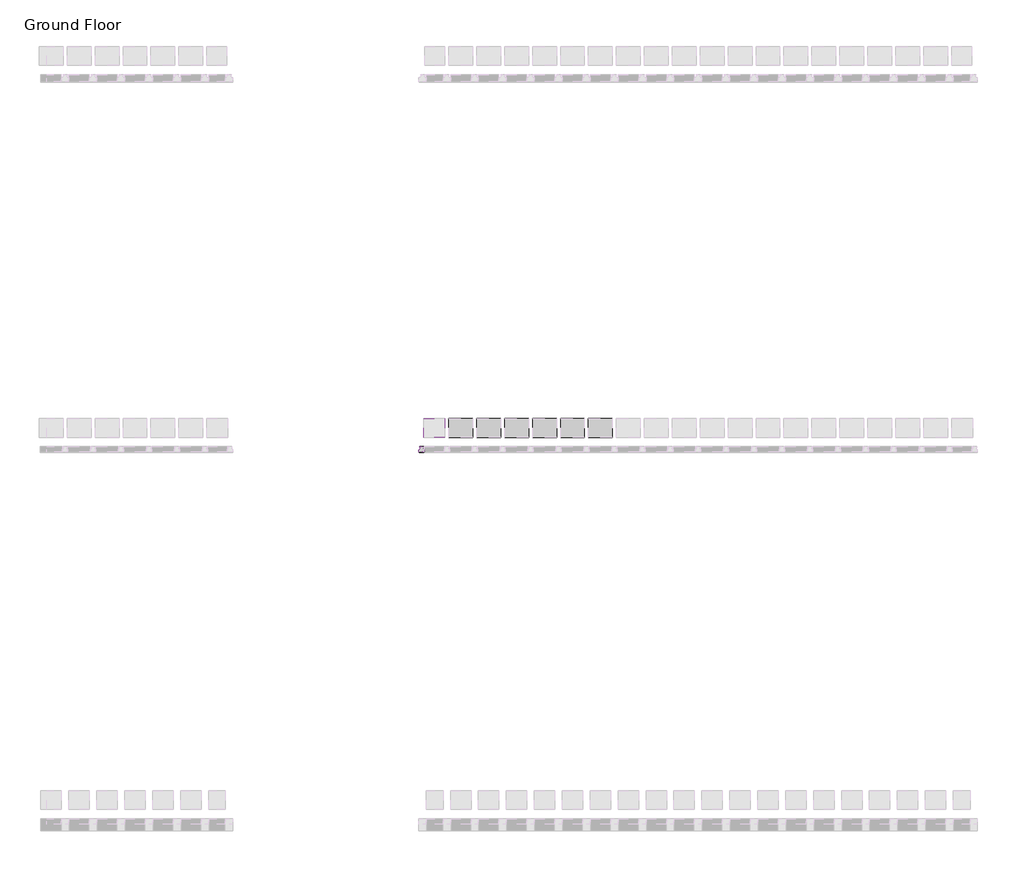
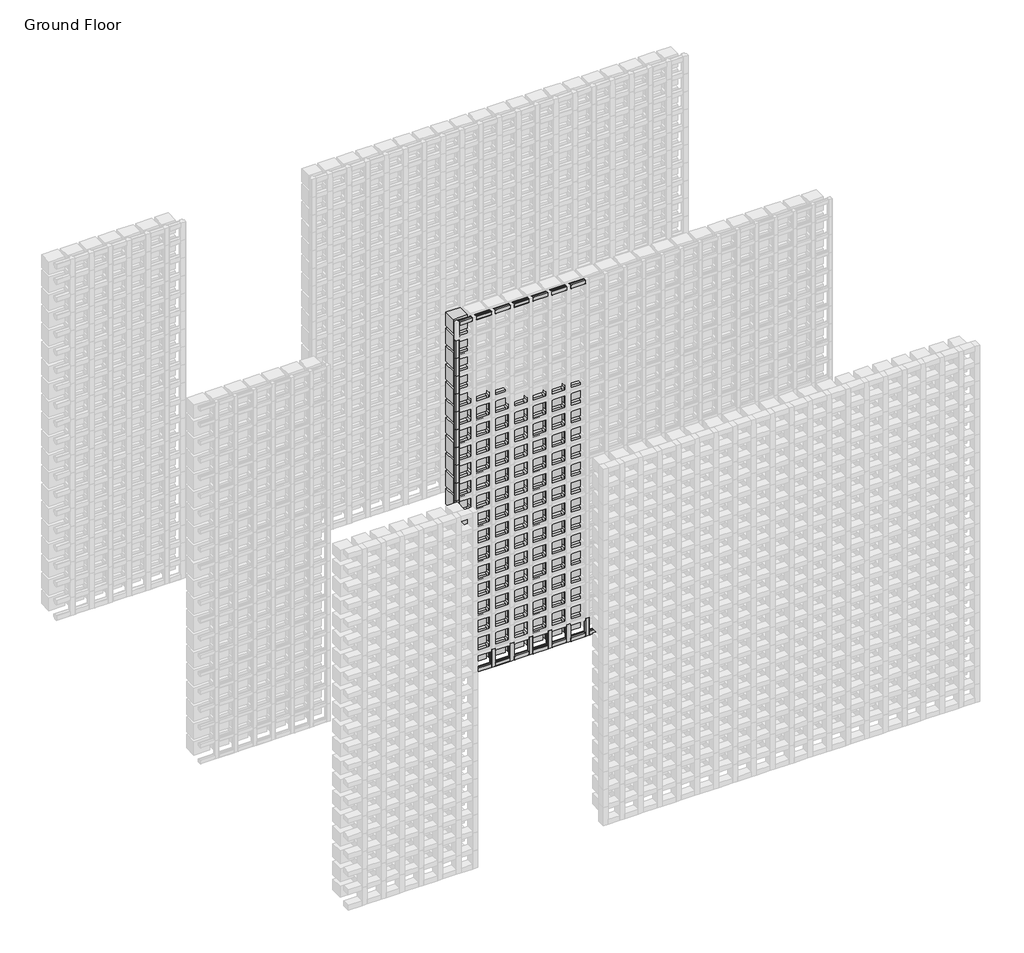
# One storey, part 103 of 350: 98 plates, 40 members.
"""IFC4 building model written with IfcOpenShell, lengths in millimetres."""

from ifc_helpers import new_model, si_unit, origin, place, context, project, spatial, transform, mapped, element, save
from components import rectangular_mullion_f1976eb1, rectangular_mullion_66d447bf, rectangular_mullion_02594090, rectangular_mullion_790ae51e, rectangular_mullion_f16743ad, empty_system_panel_empty_5a3607ba, empty_system_panel_empty_c8609655, empty_system_panel_empty_babc703c, empty_system_panel_empty_53187d3d

model = new_model("IFC4")

# Units and contexts
model_context = context("Model", 3, world=origin())
ifc_project = project(units=[si_unit("LENGTHUNIT", "METRE", prefix="MILLI")], contexts=[model_context])

# Site, building, storey
site = spatial("IfcSite", under=ifc_project)
building = spatial("IfcBuilding", under=site)
storey = spatial("IfcBuildingStorey", under=building, Name="Ground Floor", Elevation=0.0)

# Members
placement = place(None, origin())
rectangular_mullion_shape = rectangular_mullion_f1976eb1(model_context)
element("IfcMember", 1, ObjectType="Rectangular Mullion : Batten_Timber_Modinex_Austratus_Grid_Fin_30x30_Blackbutt", at=placement, inside=storey, context=model_context, shape_type="MappedRepresentation", body=[
    mapped(rectangular_mullion_shape, transform((6066.4361642, 42968.2978302, 0.0), x_axis=(1.0, 0.0, 0.0), y_axis=(0.0, -1.0, 0.0), z_axis=(0.0, 0.0, -1.0))),
])
element("IfcMember", 2, ObjectType="Rectangular Mullion : Batten_Timber_Modinex_Austratus_Grid_Fin_30x30_Blackbutt", at=placement, inside=storey, context=model_context, shape_type="MappedRepresentation", body=[
    mapped(rectangular_mullion_shape, transform((6216.4361642, 42968.2978302, 0.0), x_axis=(1.0, 0.0, 0.0), y_axis=(0.0, -1.0, 0.0), z_axis=(0.0, 0.0, -1.0))),
])
element("IfcMember", 3, ObjectType="Rectangular Mullion : Batten_Timber_Modinex_Austratus_Grid_Fin_30x30_Blackbutt", at=placement, inside=storey, context=model_context, shape_type="MappedRepresentation", body=[
    mapped(rectangular_mullion_shape, transform((6366.4361642, 42968.2978302, 0.0), x_axis=(1.0, 0.0, 0.0), y_axis=(0.0, -1.0, 0.0), z_axis=(0.0, 0.0, -1.0))),
])
element("IfcMember", 4, ObjectType="Rectangular Mullion : Batten_Timber_Modinex_Austratus_Grid_Fin_30x30_Blackbutt", at=placement, inside=storey, context=model_context, shape_type="MappedRepresentation", body=[
    mapped(rectangular_mullion_shape, transform((6516.4361642, 42968.2978302, 0.0), x_axis=(1.0, 0.0, 0.0), y_axis=(0.0, -1.0, 0.0), z_axis=(0.0, 0.0, -1.0))),
])
element("IfcMember", 5, ObjectType="Rectangular Mullion : Batten_Timber_Modinex_Austratus_Grid_Fin_30x30_Blackbutt", at=placement, inside=storey, context=model_context, shape_type="MappedRepresentation", body=[
    mapped(rectangular_mullion_shape, transform((6666.4361642, 42968.2978302, 0.0), x_axis=(1.0, 0.0, 0.0), y_axis=(0.0, -1.0, 0.0), z_axis=(0.0, 0.0, -1.0))),
])
element("IfcMember", 6, ObjectType="Rectangular Mullion : Batten_Timber_Modinex_Austratus_Grid_Fin_30x30_Blackbutt", at=placement, inside=storey, context=model_context, shape_type="MappedRepresentation", body=[
    mapped(rectangular_mullion_shape, transform((6816.4361642, 42968.2978302, 0.0), x_axis=(1.0, 0.0, 0.0), y_axis=(0.0, -1.0, 0.0), z_axis=(0.0, 0.0, -1.0))),
])
element("IfcMember", 7, ObjectType="Rectangular Mullion : Batten_Timber_Modinex_Austratus_Grid_Fin_30x30_Blackbutt", at=placement, inside=storey, context=model_context, shape_type="MappedRepresentation", body=[
    mapped(rectangular_mullion_shape, transform((6966.4361642, 42968.2978302, 0.0), x_axis=(1.0, 0.0, 0.0), y_axis=(0.0, -1.0, 0.0), z_axis=(0.0, 0.0, -1.0))),
])
rectangular_mullion_2_shape = rectangular_mullion_66d447bf(model_context)
element("IfcMember", 8, ObjectType="Rectangular Mullion : Batten_Timber_Modinex_Austratus_Grid_Fin_30x30_Blackbutt", at=placement, inside=storey, context=model_context, shape_type="MappedRepresentation", body=[
    mapped(rectangular_mullion_2_shape, transform((6051.4361642, 42968.2978302, 3000.0), x_axis=(0.0, 0.0, 1.0), y_axis=(0.0, -1.0, 0.0), z_axis=(1.0, 0.0, 0.0))),
])
rectangular_mullion_3_shape = rectangular_mullion_02594090(model_context)
element("IfcMember", 9, ObjectType="Rectangular Mullion : Batten_Timber_Modinex_Austratus_Grid_Fin_30x30_Blackbutt", at=placement, inside=storey, context=model_context, shape_type="MappedRepresentation", body=[
    mapped(rectangular_mullion_3_shape, transform((6201.4361642, 42968.2978302, 3000.0), x_axis=(0.0, 0.0, 1.0), y_axis=(0.0, -1.0, 0.0), z_axis=(1.0, 0.0, 0.0))),
])
element("IfcMember", 10, ObjectType="Rectangular Mullion : Batten_Timber_Modinex_Austratus_Grid_Fin_30x30_Blackbutt", at=placement, inside=storey, context=model_context, shape_type="MappedRepresentation", body=[
    mapped(rectangular_mullion_3_shape, transform((6351.4361642, 42968.2978302, 3000.0), x_axis=(0.0, 0.0, 1.0), y_axis=(0.0, -1.0, 0.0), z_axis=(1.0, 0.0, 0.0))),
])
element("IfcMember", 11, ObjectType="Rectangular Mullion : Batten_Timber_Modinex_Austratus_Grid_Fin_30x30_Blackbutt", at=placement, inside=storey, context=model_context, shape_type="MappedRepresentation", body=[
    mapped(rectangular_mullion_3_shape, transform((6501.4361642, 42968.2978302, 3000.0), x_axis=(0.0, 0.0, 1.0), y_axis=(0.0, -1.0, 0.0), z_axis=(1.0, 0.0, 0.0))),
])
element("IfcMember", 12, ObjectType="Rectangular Mullion : Batten_Timber_Modinex_Austratus_Grid_Fin_30x30_Blackbutt", at=placement, inside=storey, context=model_context, shape_type="MappedRepresentation", body=[
    mapped(rectangular_mullion_3_shape, transform((6651.4361642, 42968.2978302, 3000.0), x_axis=(0.0, 0.0, 1.0), y_axis=(0.0, -1.0, 0.0), z_axis=(1.0, 0.0, 0.0))),
])
element("IfcMember", 13, ObjectType="Rectangular Mullion : Batten_Timber_Modinex_Austratus_Grid_Fin_30x30_Blackbutt", at=placement, inside=storey, context=model_context, shape_type="MappedRepresentation", body=[
    mapped(rectangular_mullion_3_shape, transform((6801.4361642, 42968.2978302, 3000.0), x_axis=(0.0, 0.0, 1.0), y_axis=(0.0, -1.0, 0.0), z_axis=(1.0, 0.0, 0.0))),
])
element("IfcMember", 14, ObjectType="Rectangular Mullion : Batten_Timber_Modinex_Austratus_Grid_Fin_30x30_Blackbutt", at=placement, inside=storey, context=model_context, shape_type="MappedRepresentation", body=[
    mapped(rectangular_mullion_3_shape, transform((6951.4361642, 42968.2978302, 3000.0), x_axis=(0.0, 0.0, 1.0), y_axis=(0.0, -1.0, 0.0), z_axis=(1.0, 0.0, 0.0))),
])
rectangular_mullion_4_shape = rectangular_mullion_790ae51e(model_context)
element("IfcMember", 15, ObjectType="Rectangular Mullion : Batten_Timber_Modinex_Austratus_Grid_Fin_30x30_Blackbutt", at=placement, inside=storey, context=model_context, shape_type="MappedRepresentation", body=[
    mapped(rectangular_mullion_4_shape, transform((6081.4361642, 42968.2978302, 0.0), x_axis=(0.0, 0.0, -1.0), y_axis=(0.0, -1.0, 0.0), z_axis=(-1.0, 0.0, 0.0))),
])
element("IfcMember", 16, ObjectType="Rectangular Mullion : Batten_Timber_Modinex_Austratus_Grid_Fin_30x30_Blackbutt", at=placement, inside=storey, context=model_context, shape_type="MappedRepresentation", body=[
    mapped(rectangular_mullion_4_shape, transform((6231.4361642, 42968.2978302, 0.0), x_axis=(0.0, 0.0, -1.0), y_axis=(0.0, -1.0, 0.0), z_axis=(-1.0, 0.0, 0.0))),
])
element("IfcMember", 17, ObjectType="Rectangular Mullion : Batten_Timber_Modinex_Austratus_Grid_Fin_30x30_Blackbutt", at=placement, inside=storey, context=model_context, shape_type="MappedRepresentation", body=[
    mapped(rectangular_mullion_4_shape, transform((6381.4361642, 42968.2978302, 0.0), x_axis=(0.0, 0.0, -1.0), y_axis=(0.0, -1.0, 0.0), z_axis=(-1.0, 0.0, 0.0))),
])
element("IfcMember", 18, ObjectType="Rectangular Mullion : Batten_Timber_Modinex_Austratus_Grid_Fin_30x30_Blackbutt", at=placement, inside=storey, context=model_context, shape_type="MappedRepresentation", body=[
    mapped(rectangular_mullion_4_shape, transform((6531.4361642, 42968.2978302, 0.0), x_axis=(0.0, 0.0, -1.0), y_axis=(0.0, -1.0, 0.0), z_axis=(-1.0, 0.0, 0.0))),
])
element("IfcMember", 19, ObjectType="Rectangular Mullion : Batten_Timber_Modinex_Austratus_Grid_Fin_30x30_Blackbutt", at=placement, inside=storey, context=model_context, shape_type="MappedRepresentation", body=[
    mapped(rectangular_mullion_4_shape, transform((6681.4361642, 42968.2978302, 0.0), x_axis=(0.0, 0.0, -1.0), y_axis=(0.0, -1.0, 0.0), z_axis=(-1.0, 0.0, 0.0))),
])
element("IfcMember", 20, ObjectType="Rectangular Mullion : Batten_Timber_Modinex_Austratus_Grid_Fin_30x30_Blackbutt", at=placement, inside=storey, context=model_context, shape_type="MappedRepresentation", body=[
    mapped(rectangular_mullion_4_shape, transform((6831.4361642, 42968.2978302, 0.0), x_axis=(0.0, 0.0, -1.0), y_axis=(0.0, -1.0, 0.0), z_axis=(-1.0, 0.0, 0.0))),
])
element("IfcMember", 21, ObjectType="Rectangular Mullion : Batten_Timber_Modinex_Austratus_Grid_Fin_30x30_Blackbutt", at=placement, inside=storey, context=model_context, shape_type="MappedRepresentation", body=[
    mapped(rectangular_mullion_4_shape, transform((6981.4361642, 42968.2978302, 0.0), x_axis=(0.0, 0.0, -1.0), y_axis=(0.0, -1.0, 0.0), z_axis=(-1.0, 0.0, 0.0))),
])
rectangular_mullion_5_shape = rectangular_mullion_f16743ad(model_context)
element("IfcMember", 22, ObjectType="Rectangular Mullion : Batten_Timber_Modinex_Austratus_Grid_Fin_30x30_Blackbutt", at=placement, inside=storey, context=model_context, shape_type="MappedRepresentation", body=[
    mapped(rectangular_mullion_5_shape, transform((5916.4361639, 42968.2978302, 150.0), x_axis=(-1.0, 0.0, 0.0), y_axis=(0.0, -1.0, 0.0), z_axis=(0.0, 0.0, 1.0))),
])
element("IfcMember", 23, ObjectType="Rectangular Mullion : Batten_Timber_Modinex_Austratus_Grid_Fin_30x30_Blackbutt", at=placement, inside=storey, context=model_context, shape_type="MappedRepresentation", body=[
    mapped(rectangular_mullion_5_shape, transform((5916.4361639, 42968.2978302, 300.0), x_axis=(-1.0, 0.0, 0.0), y_axis=(0.0, -1.0, 0.0), z_axis=(0.0, 0.0, 1.0))),
])
element("IfcMember", 24, ObjectType="Rectangular Mullion : Batten_Timber_Modinex_Austratus_Grid_Fin_30x30_Blackbutt", at=placement, inside=storey, context=model_context, shape_type="MappedRepresentation", body=[
    mapped(rectangular_mullion_5_shape, transform((5916.4361639, 42968.2978302, 450.0), x_axis=(-1.0, 0.0, 0.0), y_axis=(0.0, -1.0, 0.0), z_axis=(0.0, 0.0, 1.0))),
])
element("IfcMember", 25, ObjectType="Rectangular Mullion : Batten_Timber_Modinex_Austratus_Grid_Fin_30x30_Blackbutt", at=placement, inside=storey, context=model_context, shape_type="MappedRepresentation", body=[
    mapped(rectangular_mullion_5_shape, transform((5916.4361639, 42968.2978302, 600.0), x_axis=(-1.0, 0.0, 0.0), y_axis=(0.0, -1.0, 0.0), z_axis=(0.0, 0.0, 1.0))),
])
element("IfcMember", 26, ObjectType="Rectangular Mullion : Batten_Timber_Modinex_Austratus_Grid_Fin_30x30_Blackbutt", at=placement, inside=storey, context=model_context, shape_type="MappedRepresentation", body=[
    mapped(rectangular_mullion_5_shape, transform((5916.4361639, 42968.2978302, 750.0), x_axis=(-1.0, 0.0, 0.0), y_axis=(0.0, -1.0, 0.0), z_axis=(0.0, 0.0, 1.0))),
])
element("IfcMember", 27, ObjectType="Rectangular Mullion : Batten_Timber_Modinex_Austratus_Grid_Fin_30x30_Blackbutt", at=placement, inside=storey, context=model_context, shape_type="MappedRepresentation", body=[
    mapped(rectangular_mullion_5_shape, transform((5916.4361639, 42968.2978302, 900.0), x_axis=(-1.0, 0.0, 0.0), y_axis=(0.0, -1.0, 0.0), z_axis=(0.0, 0.0, 1.0))),
])
element("IfcMember", 28, ObjectType="Rectangular Mullion : Batten_Timber_Modinex_Austratus_Grid_Fin_30x30_Blackbutt", at=placement, inside=storey, context=model_context, shape_type="MappedRepresentation", body=[
    mapped(rectangular_mullion_5_shape, transform((5916.4361639, 42968.2978302, 1050.0), x_axis=(-1.0, 0.0, 0.0), y_axis=(0.0, -1.0, 0.0), z_axis=(0.0, 0.0, 1.0))),
])
element("IfcMember", 29, ObjectType="Rectangular Mullion : Batten_Timber_Modinex_Austratus_Grid_Fin_30x30_Blackbutt", at=placement, inside=storey, context=model_context, shape_type="MappedRepresentation", body=[
    mapped(rectangular_mullion_5_shape, transform((5916.4361639, 42968.2978302, 1200.0), x_axis=(-1.0, 0.0, 0.0), y_axis=(0.0, -1.0, 0.0), z_axis=(0.0, 0.0, 1.0))),
])
element("IfcMember", 30, ObjectType="Rectangular Mullion : Batten_Timber_Modinex_Austratus_Grid_Fin_30x30_Blackbutt", at=placement, inside=storey, context=model_context, shape_type="MappedRepresentation", body=[
    mapped(rectangular_mullion_5_shape, transform((5916.4361639, 42968.2978302, 1350.0), x_axis=(-1.0, 0.0, 0.0), y_axis=(0.0, -1.0, 0.0), z_axis=(0.0, 0.0, 1.0))),
])
element("IfcMember", 31, ObjectType="Rectangular Mullion : Batten_Timber_Modinex_Austratus_Grid_Fin_30x30_Blackbutt", at=placement, inside=storey, context=model_context, shape_type="MappedRepresentation", body=[
    mapped(rectangular_mullion_5_shape, transform((5916.4361639, 42968.2978302, 1500.0), x_axis=(-1.0, 0.0, 0.0), y_axis=(0.0, -1.0, 0.0), z_axis=(0.0, 0.0, 1.0))),
])
element("IfcMember", 32, ObjectType="Rectangular Mullion : Batten_Timber_Modinex_Austratus_Grid_Fin_30x30_Blackbutt", at=placement, inside=storey, context=model_context, shape_type="MappedRepresentation", body=[
    mapped(rectangular_mullion_5_shape, transform((5916.4361639, 42968.2978302, 1650.0), x_axis=(-1.0, 0.0, 0.0), y_axis=(0.0, -1.0, 0.0), z_axis=(0.0, 0.0, 1.0))),
])
element("IfcMember", 33, ObjectType="Rectangular Mullion : Batten_Timber_Modinex_Austratus_Grid_Fin_30x30_Blackbutt", at=placement, inside=storey, context=model_context, shape_type="MappedRepresentation", body=[
    mapped(rectangular_mullion_5_shape, transform((5916.4361639, 42968.2978302, 1800.0), x_axis=(-1.0, 0.0, 0.0), y_axis=(0.0, -1.0, 0.0), z_axis=(0.0, 0.0, 1.0))),
])
element("IfcMember", 34, ObjectType="Rectangular Mullion : Batten_Timber_Modinex_Austratus_Grid_Fin_30x30_Blackbutt", at=placement, inside=storey, context=model_context, shape_type="MappedRepresentation", body=[
    mapped(rectangular_mullion_5_shape, transform((5916.4361639, 42968.2978302, 1950.0), x_axis=(-1.0, 0.0, 0.0), y_axis=(0.0, -1.0, 0.0), z_axis=(0.0, 0.0, 1.0))),
])
element("IfcMember", 35, ObjectType="Rectangular Mullion : Batten_Timber_Modinex_Austratus_Grid_Fin_30x30_Blackbutt", at=placement, inside=storey, context=model_context, shape_type="MappedRepresentation", body=[
    mapped(rectangular_mullion_5_shape, transform((5916.4361639, 42968.2978302, 2100.0), x_axis=(-1.0, 0.0, 0.0), y_axis=(0.0, -1.0, 0.0), z_axis=(0.0, 0.0, 1.0))),
])
element("IfcMember", 36, ObjectType="Rectangular Mullion : Batten_Timber_Modinex_Austratus_Grid_Fin_30x30_Blackbutt", at=placement, inside=storey, context=model_context, shape_type="MappedRepresentation", body=[
    mapped(rectangular_mullion_5_shape, transform((5916.4361639, 42968.2978302, 2250.0), x_axis=(-1.0, 0.0, 0.0), y_axis=(0.0, -1.0, 0.0), z_axis=(0.0, 0.0, 1.0))),
])
element("IfcMember", 37, ObjectType="Rectangular Mullion : Batten_Timber_Modinex_Austratus_Grid_Fin_30x30_Blackbutt", at=placement, inside=storey, context=model_context, shape_type="MappedRepresentation", body=[
    mapped(rectangular_mullion_5_shape, transform((5916.4361639, 42968.2978302, 2400.0), x_axis=(-1.0, 0.0, 0.0), y_axis=(0.0, -1.0, 0.0), z_axis=(0.0, 0.0, 1.0))),
])
element("IfcMember", 38, ObjectType="Rectangular Mullion : Batten_Timber_Modinex_Austratus_Grid_Fin_30x30_Blackbutt", at=placement, inside=storey, context=model_context, shape_type="MappedRepresentation", body=[
    mapped(rectangular_mullion_5_shape, transform((5916.4361639, 42968.2978302, 2550.0), x_axis=(-1.0, 0.0, 0.0), y_axis=(0.0, -1.0, 0.0), z_axis=(0.0, 0.0, 1.0))),
])
element("IfcMember", 39, ObjectType="Rectangular Mullion : Batten_Timber_Modinex_Austratus_Grid_Fin_30x30_Blackbutt", at=placement, inside=storey, context=model_context, shape_type="MappedRepresentation", body=[
    mapped(rectangular_mullion_5_shape, transform((5916.4361639, 42968.2978302, 2700.0), x_axis=(-1.0, 0.0, 0.0), y_axis=(0.0, -1.0, 0.0), z_axis=(0.0, 0.0, 1.0))),
])
element("IfcMember", 40, ObjectType="Rectangular Mullion : Batten_Timber_Modinex_Austratus_Grid_Fin_30x30_Blackbutt", at=placement, inside=storey, context=model_context, shape_type="MappedRepresentation", body=[
    mapped(rectangular_mullion_5_shape, transform((5916.4361639, 42968.2978302, 2850.0), x_axis=(-1.0, 0.0, 0.0), y_axis=(0.0, -1.0, 0.0), z_axis=(0.0, 0.0, 1.0))),
])

# Plates
empty_system_panel_empty_shape = empty_system_panel_empty_5a3607ba(model_context)
element("IfcPlate", 41, ObjectType="Empty System Panel : Empty", at=placement, inside=storey, context=model_context, shape_type="MappedRepresentation", body=[
    mapped(empty_system_panel_empty_shape, transform((6141.4361642, 42968.2978302, 160.812195), x_axis=(1.0, 0.0, 0.0), y_axis=(0.0, 1.0, 0.0), z_axis=(0.0, 0.0, 1.0))),
])
element("IfcPlate", 42, ObjectType="Empty System Panel : Empty", at=placement, inside=storey, context=model_context, shape_type="MappedRepresentation", body=[
    mapped(empty_system_panel_empty_shape, transform((6291.4361642, 42968.2978302, 160.812195), x_axis=(1.0, 0.0, 0.0), y_axis=(0.0, 1.0, 0.0), z_axis=(0.0, 0.0, 1.0))),
])
element("IfcPlate", 43, ObjectType="Empty System Panel : Empty", at=placement, inside=storey, context=model_context, shape_type="MappedRepresentation", body=[
    mapped(empty_system_panel_empty_shape, transform((6441.4361642, 42968.2978302, 160.812195), x_axis=(1.0, 0.0, 0.0), y_axis=(0.0, 1.0, 0.0), z_axis=(0.0, 0.0, 1.0))),
])
element("IfcPlate", 44, ObjectType="Empty System Panel : Empty", at=placement, inside=storey, context=model_context, shape_type="MappedRepresentation", body=[
    mapped(empty_system_panel_empty_shape, transform((6591.4361642, 42968.2978302, 160.812195), x_axis=(1.0, 0.0, 0.0), y_axis=(0.0, 1.0, 0.0), z_axis=(0.0, 0.0, 1.0))),
])
element("IfcPlate", 45, ObjectType="Empty System Panel : Empty", at=placement, inside=storey, context=model_context, shape_type="MappedRepresentation", body=[
    mapped(empty_system_panel_empty_shape, transform((6741.4361642, 42968.2978302, 160.812195), x_axis=(1.0, 0.0, 0.0), y_axis=(0.0, 1.0, 0.0), z_axis=(0.0, 0.0, 1.0))),
])
element("IfcPlate", 46, ObjectType="Empty System Panel : Empty", at=placement, inside=storey, context=model_context, shape_type="MappedRepresentation", body=[
    mapped(empty_system_panel_empty_shape, transform((6891.4361642, 42968.2978302, 160.812195), x_axis=(1.0, 0.0, 0.0), y_axis=(0.0, 1.0, 0.0), z_axis=(0.0, 0.0, 1.0))),
])
element("IfcPlate", 47, ObjectType="Empty System Panel : Empty", at=placement, inside=storey, context=model_context, shape_type="MappedRepresentation", body=[
    mapped(empty_system_panel_empty_shape, transform((6141.4361642, 42968.2978302, 310.812195), x_axis=(1.0, 0.0, 0.0), y_axis=(0.0, 1.0, 0.0), z_axis=(0.0, 0.0, 1.0))),
])
element("IfcPlate", 48, ObjectType="Empty System Panel : Empty", at=placement, inside=storey, context=model_context, shape_type="MappedRepresentation", body=[
    mapped(empty_system_panel_empty_shape, transform((6291.4361642, 42968.2978302, 310.812195), x_axis=(1.0, 0.0, 0.0), y_axis=(0.0, 1.0, 0.0), z_axis=(0.0, 0.0, 1.0))),
])
element("IfcPlate", 49, ObjectType="Empty System Panel : Empty", at=placement, inside=storey, context=model_context, shape_type="MappedRepresentation", body=[
    mapped(empty_system_panel_empty_shape, transform((6441.4361642, 42968.2978302, 310.812195), x_axis=(1.0, 0.0, 0.0), y_axis=(0.0, 1.0, 0.0), z_axis=(0.0, 0.0, 1.0))),
])
element("IfcPlate", 50, ObjectType="Empty System Panel : Empty", at=placement, inside=storey, context=model_context, shape_type="MappedRepresentation", body=[
    mapped(empty_system_panel_empty_shape, transform((6591.4361642, 42968.2978302, 310.812195), x_axis=(1.0, 0.0, 0.0), y_axis=(0.0, 1.0, 0.0), z_axis=(0.0, 0.0, 1.0))),
])
element("IfcPlate", 51, ObjectType="Empty System Panel : Empty", at=placement, inside=storey, context=model_context, shape_type="MappedRepresentation", body=[
    mapped(empty_system_panel_empty_shape, transform((6741.4361642, 42968.2978302, 310.812195), x_axis=(1.0, 0.0, 0.0), y_axis=(0.0, 1.0, 0.0), z_axis=(0.0, 0.0, 1.0))),
])
element("IfcPlate", 52, ObjectType="Empty System Panel : Empty", at=placement, inside=storey, context=model_context, shape_type="MappedRepresentation", body=[
    mapped(empty_system_panel_empty_shape, transform((6891.4361642, 42968.2978302, 310.812195), x_axis=(1.0, 0.0, 0.0), y_axis=(0.0, 1.0, 0.0), z_axis=(0.0, 0.0, 1.0))),
])
element("IfcPlate", 53, ObjectType="Empty System Panel : Empty", at=placement, inside=storey, context=model_context, shape_type="MappedRepresentation", body=[
    mapped(empty_system_panel_empty_shape, transform((6141.4361642, 42968.2978302, 460.812195), x_axis=(1.0, 0.0, 0.0), y_axis=(0.0, 1.0, 0.0), z_axis=(0.0, 0.0, 1.0))),
])
element("IfcPlate", 54, ObjectType="Empty System Panel : Empty", at=placement, inside=storey, context=model_context, shape_type="MappedRepresentation", body=[
    mapped(empty_system_panel_empty_shape, transform((6291.4361642, 42968.2978302, 460.812195), x_axis=(1.0, 0.0, 0.0), y_axis=(0.0, 1.0, 0.0), z_axis=(0.0, 0.0, 1.0))),
])
element("IfcPlate", 55, ObjectType="Empty System Panel : Empty", at=placement, inside=storey, context=model_context, shape_type="MappedRepresentation", body=[
    mapped(empty_system_panel_empty_shape, transform((6441.4361642, 42968.2978302, 460.812195), x_axis=(1.0, 0.0, 0.0), y_axis=(0.0, 1.0, 0.0), z_axis=(0.0, 0.0, 1.0))),
])
element("IfcPlate", 56, ObjectType="Empty System Panel : Empty", at=placement, inside=storey, context=model_context, shape_type="MappedRepresentation", body=[
    mapped(empty_system_panel_empty_shape, transform((6591.4361642, 42968.2978302, 460.812195), x_axis=(1.0, 0.0, 0.0), y_axis=(0.0, 1.0, 0.0), z_axis=(0.0, 0.0, 1.0))),
])
element("IfcPlate", 57, ObjectType="Empty System Panel : Empty", at=placement, inside=storey, context=model_context, shape_type="MappedRepresentation", body=[
    mapped(empty_system_panel_empty_shape, transform((6741.4361642, 42968.2978302, 460.812195), x_axis=(1.0, 0.0, 0.0), y_axis=(0.0, 1.0, 0.0), z_axis=(0.0, 0.0, 1.0))),
])
element("IfcPlate", 58, ObjectType="Empty System Panel : Empty", at=placement, inside=storey, context=model_context, shape_type="MappedRepresentation", body=[
    mapped(empty_system_panel_empty_shape, transform((6891.4361642, 42968.2978302, 460.812195), x_axis=(1.0, 0.0, 0.0), y_axis=(0.0, 1.0, 0.0), z_axis=(0.0, 0.0, 1.0))),
])
element("IfcPlate", 59, ObjectType="Empty System Panel : Empty", at=placement, inside=storey, context=model_context, shape_type="MappedRepresentation", body=[
    mapped(empty_system_panel_empty_shape, transform((6141.4361642, 42968.2978302, 610.812195), x_axis=(1.0, 0.0, 0.0), y_axis=(0.0, 1.0, 0.0), z_axis=(0.0, 0.0, 1.0))),
])
element("IfcPlate", 60, ObjectType="Empty System Panel : Empty", at=placement, inside=storey, context=model_context, shape_type="MappedRepresentation", body=[
    mapped(empty_system_panel_empty_shape, transform((6291.4361642, 42968.2978302, 610.812195), x_axis=(1.0, 0.0, 0.0), y_axis=(0.0, 1.0, 0.0), z_axis=(0.0, 0.0, 1.0))),
])
element("IfcPlate", 61, ObjectType="Empty System Panel : Empty", at=placement, inside=storey, context=model_context, shape_type="MappedRepresentation", body=[
    mapped(empty_system_panel_empty_shape, transform((6441.4361642, 42968.2978302, 610.812195), x_axis=(1.0, 0.0, 0.0), y_axis=(0.0, 1.0, 0.0), z_axis=(0.0, 0.0, 1.0))),
])
element("IfcPlate", 62, ObjectType="Empty System Panel : Empty", at=placement, inside=storey, context=model_context, shape_type="MappedRepresentation", body=[
    mapped(empty_system_panel_empty_shape, transform((6591.4361642, 42968.2978302, 610.812195), x_axis=(1.0, 0.0, 0.0), y_axis=(0.0, 1.0, 0.0), z_axis=(0.0, 0.0, 1.0))),
])
element("IfcPlate", 63, ObjectType="Empty System Panel : Empty", at=placement, inside=storey, context=model_context, shape_type="MappedRepresentation", body=[
    mapped(empty_system_panel_empty_shape, transform((6741.4361642, 42968.2978302, 610.812195), x_axis=(1.0, 0.0, 0.0), y_axis=(0.0, 1.0, 0.0), z_axis=(0.0, 0.0, 1.0))),
])
element("IfcPlate", 64, ObjectType="Empty System Panel : Empty", at=placement, inside=storey, context=model_context, shape_type="MappedRepresentation", body=[
    mapped(empty_system_panel_empty_shape, transform((6891.4361642, 42968.2978302, 610.812195), x_axis=(1.0, 0.0, 0.0), y_axis=(0.0, 1.0, 0.0), z_axis=(0.0, 0.0, 1.0))),
])
element("IfcPlate", 65, ObjectType="Empty System Panel : Empty", at=placement, inside=storey, context=model_context, shape_type="MappedRepresentation", body=[
    mapped(empty_system_panel_empty_shape, transform((6141.4361642, 42968.2978302, 760.812195), x_axis=(1.0, 0.0, 0.0), y_axis=(0.0, 1.0, 0.0), z_axis=(0.0, 0.0, 1.0))),
])
element("IfcPlate", 66, ObjectType="Empty System Panel : Empty", at=placement, inside=storey, context=model_context, shape_type="MappedRepresentation", body=[
    mapped(empty_system_panel_empty_shape, transform((6291.4361642, 42968.2978302, 760.812195), x_axis=(1.0, 0.0, 0.0), y_axis=(0.0, 1.0, 0.0), z_axis=(0.0, 0.0, 1.0))),
])
element("IfcPlate", 67, ObjectType="Empty System Panel : Empty", at=placement, inside=storey, context=model_context, shape_type="MappedRepresentation", body=[
    mapped(empty_system_panel_empty_shape, transform((6441.4361642, 42968.2978302, 760.812195), x_axis=(1.0, 0.0, 0.0), y_axis=(0.0, 1.0, 0.0), z_axis=(0.0, 0.0, 1.0))),
])
element("IfcPlate", 68, ObjectType="Empty System Panel : Empty", at=placement, inside=storey, context=model_context, shape_type="MappedRepresentation", body=[
    mapped(empty_system_panel_empty_shape, transform((6591.4361642, 42968.2978302, 760.812195), x_axis=(1.0, 0.0, 0.0), y_axis=(0.0, 1.0, 0.0), z_axis=(0.0, 0.0, 1.0))),
])
element("IfcPlate", 69, ObjectType="Empty System Panel : Empty", at=placement, inside=storey, context=model_context, shape_type="MappedRepresentation", body=[
    mapped(empty_system_panel_empty_shape, transform((6741.4361642, 42968.2978302, 760.812195), x_axis=(1.0, 0.0, 0.0), y_axis=(0.0, 1.0, 0.0), z_axis=(0.0, 0.0, 1.0))),
])
element("IfcPlate", 70, ObjectType="Empty System Panel : Empty", at=placement, inside=storey, context=model_context, shape_type="MappedRepresentation", body=[
    mapped(empty_system_panel_empty_shape, transform((6891.4361642, 42968.2978302, 760.812195), x_axis=(1.0, 0.0, 0.0), y_axis=(0.0, 1.0, 0.0), z_axis=(0.0, 0.0, 1.0))),
])
element("IfcPlate", 71, ObjectType="Empty System Panel : Empty", at=placement, inside=storey, context=model_context, shape_type="MappedRepresentation", body=[
    mapped(empty_system_panel_empty_shape, transform((6141.4361642, 42968.2978302, 910.812195), x_axis=(1.0, 0.0, 0.0), y_axis=(0.0, 1.0, 0.0), z_axis=(0.0, 0.0, 1.0))),
])
element("IfcPlate", 72, ObjectType="Empty System Panel : Empty", at=placement, inside=storey, context=model_context, shape_type="MappedRepresentation", body=[
    mapped(empty_system_panel_empty_shape, transform((6291.4361642, 42968.2978302, 910.812195), x_axis=(1.0, 0.0, 0.0), y_axis=(0.0, 1.0, 0.0), z_axis=(0.0, 0.0, 1.0))),
])
element("IfcPlate", 73, ObjectType="Empty System Panel : Empty", at=placement, inside=storey, context=model_context, shape_type="MappedRepresentation", body=[
    mapped(empty_system_panel_empty_shape, transform((6441.4361642, 42968.2978302, 910.812195), x_axis=(1.0, 0.0, 0.0), y_axis=(0.0, 1.0, 0.0), z_axis=(0.0, 0.0, 1.0))),
])
element("IfcPlate", 74, ObjectType="Empty System Panel : Empty", at=placement, inside=storey, context=model_context, shape_type="MappedRepresentation", body=[
    mapped(empty_system_panel_empty_shape, transform((6591.4361642, 42968.2978302, 910.812195), x_axis=(1.0, 0.0, 0.0), y_axis=(0.0, 1.0, 0.0), z_axis=(0.0, 0.0, 1.0))),
])
element("IfcPlate", 75, ObjectType="Empty System Panel : Empty", at=placement, inside=storey, context=model_context, shape_type="MappedRepresentation", body=[
    mapped(empty_system_panel_empty_shape, transform((6741.4361642, 42968.2978302, 910.812195), x_axis=(1.0, 0.0, 0.0), y_axis=(0.0, 1.0, 0.0), z_axis=(0.0, 0.0, 1.0))),
])
element("IfcPlate", 76, ObjectType="Empty System Panel : Empty", at=placement, inside=storey, context=model_context, shape_type="MappedRepresentation", body=[
    mapped(empty_system_panel_empty_shape, transform((6891.4361642, 42968.2978302, 910.812195), x_axis=(1.0, 0.0, 0.0), y_axis=(0.0, 1.0, 0.0), z_axis=(0.0, 0.0, 1.0))),
])
element("IfcPlate", 77, ObjectType="Empty System Panel : Empty", at=placement, inside=storey, context=model_context, shape_type="MappedRepresentation", body=[
    mapped(empty_system_panel_empty_shape, transform((6141.4361642, 42968.2978302, 1060.812195), x_axis=(1.0, 0.0, 0.0), y_axis=(0.0, 1.0, 0.0), z_axis=(0.0, 0.0, 1.0))),
])
element("IfcPlate", 78, ObjectType="Empty System Panel : Empty", at=placement, inside=storey, context=model_context, shape_type="MappedRepresentation", body=[
    mapped(empty_system_panel_empty_shape, transform((6291.4361642, 42968.2978302, 1060.812195), x_axis=(1.0, 0.0, 0.0), y_axis=(0.0, 1.0, 0.0), z_axis=(0.0, 0.0, 1.0))),
])
element("IfcPlate", 79, ObjectType="Empty System Panel : Empty", at=placement, inside=storey, context=model_context, shape_type="MappedRepresentation", body=[
    mapped(empty_system_panel_empty_shape, transform((6441.4361642, 42968.2978302, 1060.812195), x_axis=(1.0, 0.0, 0.0), y_axis=(0.0, 1.0, 0.0), z_axis=(0.0, 0.0, 1.0))),
])
element("IfcPlate", 80, ObjectType="Empty System Panel : Empty", at=placement, inside=storey, context=model_context, shape_type="MappedRepresentation", body=[
    mapped(empty_system_panel_empty_shape, transform((6591.4361642, 42968.2978302, 1060.812195), x_axis=(1.0, 0.0, 0.0), y_axis=(0.0, 1.0, 0.0), z_axis=(0.0, 0.0, 1.0))),
])
element("IfcPlate", 81, ObjectType="Empty System Panel : Empty", at=placement, inside=storey, context=model_context, shape_type="MappedRepresentation", body=[
    mapped(empty_system_panel_empty_shape, transform((6741.4361642, 42968.2978302, 1060.812195), x_axis=(1.0, 0.0, 0.0), y_axis=(0.0, 1.0, 0.0), z_axis=(0.0, 0.0, 1.0))),
])
element("IfcPlate", 82, ObjectType="Empty System Panel : Empty", at=placement, inside=storey, context=model_context, shape_type="MappedRepresentation", body=[
    mapped(empty_system_panel_empty_shape, transform((6891.4361642, 42968.2978302, 1060.812195), x_axis=(1.0, 0.0, 0.0), y_axis=(0.0, 1.0, 0.0), z_axis=(0.0, 0.0, 1.0))),
])
element("IfcPlate", 83, ObjectType="Empty System Panel : Empty", at=placement, inside=storey, context=model_context, shape_type="MappedRepresentation", body=[
    mapped(empty_system_panel_empty_shape, transform((6141.4361642, 42968.2978302, 1210.812195), x_axis=(1.0, 0.0, 0.0), y_axis=(0.0, 1.0, 0.0), z_axis=(0.0, 0.0, 1.0))),
])
element("IfcPlate", 84, ObjectType="Empty System Panel : Empty", at=placement, inside=storey, context=model_context, shape_type="MappedRepresentation", body=[
    mapped(empty_system_panel_empty_shape, transform((6291.4361642, 42968.2978302, 1210.812195), x_axis=(1.0, 0.0, 0.0), y_axis=(0.0, 1.0, 0.0), z_axis=(0.0, 0.0, 1.0))),
])
element("IfcPlate", 85, ObjectType="Empty System Panel : Empty", at=placement, inside=storey, context=model_context, shape_type="MappedRepresentation", body=[
    mapped(empty_system_panel_empty_shape, transform((6441.4361642, 42968.2978302, 1210.812195), x_axis=(1.0, 0.0, 0.0), y_axis=(0.0, 1.0, 0.0), z_axis=(0.0, 0.0, 1.0))),
])
element("IfcPlate", 86, ObjectType="Empty System Panel : Empty", at=placement, inside=storey, context=model_context, shape_type="MappedRepresentation", body=[
    mapped(empty_system_panel_empty_shape, transform((6591.4361642, 42968.2978302, 1210.812195), x_axis=(1.0, 0.0, 0.0), y_axis=(0.0, 1.0, 0.0), z_axis=(0.0, 0.0, 1.0))),
])
element("IfcPlate", 87, ObjectType="Empty System Panel : Empty", at=placement, inside=storey, context=model_context, shape_type="MappedRepresentation", body=[
    mapped(empty_system_panel_empty_shape, transform((6741.4361642, 42968.2978302, 1210.812195), x_axis=(1.0, 0.0, 0.0), y_axis=(0.0, 1.0, 0.0), z_axis=(0.0, 0.0, 1.0))),
])
element("IfcPlate", 88, ObjectType="Empty System Panel : Empty", at=placement, inside=storey, context=model_context, shape_type="MappedRepresentation", body=[
    mapped(empty_system_panel_empty_shape, transform((6891.4361642, 42968.2978302, 1210.812195), x_axis=(1.0, 0.0, 0.0), y_axis=(0.0, 1.0, 0.0), z_axis=(0.0, 0.0, 1.0))),
])
element("IfcPlate", 89, ObjectType="Empty System Panel : Empty", at=placement, inside=storey, context=model_context, shape_type="MappedRepresentation", body=[
    mapped(empty_system_panel_empty_shape, transform((6141.4361642, 42968.2978302, 1360.812195), x_axis=(1.0, 0.0, 0.0), y_axis=(0.0, 1.0, 0.0), z_axis=(0.0, 0.0, 1.0))),
])
element("IfcPlate", 90, ObjectType="Empty System Panel : Empty", at=placement, inside=storey, context=model_context, shape_type="MappedRepresentation", body=[
    mapped(empty_system_panel_empty_shape, transform((6291.4361642, 42968.2978302, 1360.812195), x_axis=(1.0, 0.0, 0.0), y_axis=(0.0, 1.0, 0.0), z_axis=(0.0, 0.0, 1.0))),
])
element("IfcPlate", 91, ObjectType="Empty System Panel : Empty", at=placement, inside=storey, context=model_context, shape_type="MappedRepresentation", body=[
    mapped(empty_system_panel_empty_shape, transform((6441.4361642, 42968.2978302, 1360.812195), x_axis=(1.0, 0.0, 0.0), y_axis=(0.0, 1.0, 0.0), z_axis=(0.0, 0.0, 1.0))),
])
element("IfcPlate", 92, ObjectType="Empty System Panel : Empty", at=placement, inside=storey, context=model_context, shape_type="MappedRepresentation", body=[
    mapped(empty_system_panel_empty_shape, transform((6591.4361642, 42968.2978302, 1360.812195), x_axis=(1.0, 0.0, 0.0), y_axis=(0.0, 1.0, 0.0), z_axis=(0.0, 0.0, 1.0))),
])
element("IfcPlate", 93, ObjectType="Empty System Panel : Empty", at=placement, inside=storey, context=model_context, shape_type="MappedRepresentation", body=[
    mapped(empty_system_panel_empty_shape, transform((6741.4361642, 42968.2978302, 1360.812195), x_axis=(1.0, 0.0, 0.0), y_axis=(0.0, 1.0, 0.0), z_axis=(0.0, 0.0, 1.0))),
])
element("IfcPlate", 94, ObjectType="Empty System Panel : Empty", at=placement, inside=storey, context=model_context, shape_type="MappedRepresentation", body=[
    mapped(empty_system_panel_empty_shape, transform((6891.4361642, 42968.2978302, 1360.812195), x_axis=(1.0, 0.0, 0.0), y_axis=(0.0, 1.0, 0.0), z_axis=(0.0, 0.0, 1.0))),
])
element("IfcPlate", 95, ObjectType="Empty System Panel : Empty", at=placement, inside=storey, context=model_context, shape_type="MappedRepresentation", body=[
    mapped(empty_system_panel_empty_shape, transform((6141.4361642, 42968.2978302, 1510.812195), x_axis=(1.0, 0.0, 0.0), y_axis=(0.0, 1.0, 0.0), z_axis=(0.0, 0.0, 1.0))),
])
element("IfcPlate", 96, ObjectType="Empty System Panel : Empty", at=placement, inside=storey, context=model_context, shape_type="MappedRepresentation", body=[
    mapped(empty_system_panel_empty_shape, transform((6291.4361642, 42968.2978302, 1510.812195), x_axis=(1.0, 0.0, 0.0), y_axis=(0.0, 1.0, 0.0), z_axis=(0.0, 0.0, 1.0))),
])
element("IfcPlate", 97, ObjectType="Empty System Panel : Empty", at=placement, inside=storey, context=model_context, shape_type="MappedRepresentation", body=[
    mapped(empty_system_panel_empty_shape, transform((6441.4361642, 42968.2978302, 1510.812195), x_axis=(1.0, 0.0, 0.0), y_axis=(0.0, 1.0, 0.0), z_axis=(0.0, 0.0, 1.0))),
])
element("IfcPlate", 98, ObjectType="Empty System Panel : Empty", at=placement, inside=storey, context=model_context, shape_type="MappedRepresentation", body=[
    mapped(empty_system_panel_empty_shape, transform((6591.4361642, 42968.2978302, 1510.812195), x_axis=(1.0, 0.0, 0.0), y_axis=(0.0, 1.0, 0.0), z_axis=(0.0, 0.0, 1.0))),
])
element("IfcPlate", 99, ObjectType="Empty System Panel : Empty", at=placement, inside=storey, context=model_context, shape_type="MappedRepresentation", body=[
    mapped(empty_system_panel_empty_shape, transform((6741.4361642, 42968.2978302, 1510.812195), x_axis=(1.0, 0.0, 0.0), y_axis=(0.0, 1.0, 0.0), z_axis=(0.0, 0.0, 1.0))),
])
element("IfcPlate", 100, ObjectType="Empty System Panel : Empty", at=placement, inside=storey, context=model_context, shape_type="MappedRepresentation", body=[
    mapped(empty_system_panel_empty_shape, transform((6891.4361642, 42968.2978302, 1510.812195), x_axis=(1.0, 0.0, 0.0), y_axis=(0.0, 1.0, 0.0), z_axis=(0.0, 0.0, 1.0))),
])
element("IfcPlate", 101, ObjectType="Empty System Panel : Empty", at=placement, inside=storey, context=model_context, shape_type="MappedRepresentation", body=[
    mapped(empty_system_panel_empty_shape, transform((6141.4361642, 42968.2978302, 1660.812195), x_axis=(1.0, 0.0, 0.0), y_axis=(0.0, 1.0, 0.0), z_axis=(0.0, 0.0, 1.0))),
])
element("IfcPlate", 102, ObjectType="Empty System Panel : Empty", at=placement, inside=storey, context=model_context, shape_type="MappedRepresentation", body=[
    mapped(empty_system_panel_empty_shape, transform((6291.4361642, 42968.2978302, 1660.812195), x_axis=(1.0, 0.0, 0.0), y_axis=(0.0, 1.0, 0.0), z_axis=(0.0, 0.0, 1.0))),
])
element("IfcPlate", 103, ObjectType="Empty System Panel : Empty", at=placement, inside=storey, context=model_context, shape_type="MappedRepresentation", body=[
    mapped(empty_system_panel_empty_shape, transform((6441.4361642, 42968.2978302, 1660.812195), x_axis=(1.0, 0.0, 0.0), y_axis=(0.0, 1.0, 0.0), z_axis=(0.0, 0.0, 1.0))),
])
element("IfcPlate", 104, ObjectType="Empty System Panel : Empty", at=placement, inside=storey, context=model_context, shape_type="MappedRepresentation", body=[
    mapped(empty_system_panel_empty_shape, transform((6591.4361642, 42968.2978302, 1660.812195), x_axis=(1.0, 0.0, 0.0), y_axis=(0.0, 1.0, 0.0), z_axis=(0.0, 0.0, 1.0))),
])
element("IfcPlate", 105, ObjectType="Empty System Panel : Empty", at=placement, inside=storey, context=model_context, shape_type="MappedRepresentation", body=[
    mapped(empty_system_panel_empty_shape, transform((6741.4361642, 42968.2978302, 1660.812195), x_axis=(1.0, 0.0, 0.0), y_axis=(0.0, 1.0, 0.0), z_axis=(0.0, 0.0, 1.0))),
])
element("IfcPlate", 106, ObjectType="Empty System Panel : Empty", at=placement, inside=storey, context=model_context, shape_type="MappedRepresentation", body=[
    mapped(empty_system_panel_empty_shape, transform((6891.4361642, 42968.2978302, 1660.812195), x_axis=(1.0, 0.0, 0.0), y_axis=(0.0, 1.0, 0.0), z_axis=(0.0, 0.0, 1.0))),
])
element("IfcPlate", 107, ObjectType="Empty System Panel : Empty", at=placement, inside=storey, context=model_context, shape_type="MappedRepresentation", body=[
    mapped(empty_system_panel_empty_shape, transform((6141.4361642, 42968.2978302, 1810.812195), x_axis=(1.0, 0.0, 0.0), y_axis=(0.0, 1.0, 0.0), z_axis=(0.0, 0.0, 1.0))),
])
element("IfcPlate", 108, ObjectType="Empty System Panel : Empty", at=placement, inside=storey, context=model_context, shape_type="MappedRepresentation", body=[
    mapped(empty_system_panel_empty_shape, transform((6291.4361642, 42968.2978302, 1810.812195), x_axis=(1.0, 0.0, 0.0), y_axis=(0.0, 1.0, 0.0), z_axis=(0.0, 0.0, 1.0))),
])
element("IfcPlate", 109, ObjectType="Empty System Panel : Empty", at=placement, inside=storey, context=model_context, shape_type="MappedRepresentation", body=[
    mapped(empty_system_panel_empty_shape, transform((6441.4361642, 42968.2978302, 1810.812195), x_axis=(1.0, 0.0, 0.0), y_axis=(0.0, 1.0, 0.0), z_axis=(0.0, 0.0, 1.0))),
])
element("IfcPlate", 110, ObjectType="Empty System Panel : Empty", at=placement, inside=storey, context=model_context, shape_type="MappedRepresentation", body=[
    mapped(empty_system_panel_empty_shape, transform((6591.4361642, 42968.2978302, 1810.812195), x_axis=(1.0, 0.0, 0.0), y_axis=(0.0, 1.0, 0.0), z_axis=(0.0, 0.0, 1.0))),
])
element("IfcPlate", 111, ObjectType="Empty System Panel : Empty", at=placement, inside=storey, context=model_context, shape_type="MappedRepresentation", body=[
    mapped(empty_system_panel_empty_shape, transform((6741.4361642, 42968.2978302, 1810.812195), x_axis=(1.0, 0.0, 0.0), y_axis=(0.0, 1.0, 0.0), z_axis=(0.0, 0.0, 1.0))),
])
element("IfcPlate", 112, ObjectType="Empty System Panel : Empty", at=placement, inside=storey, context=model_context, shape_type="MappedRepresentation", body=[
    mapped(empty_system_panel_empty_shape, transform((6891.4361642, 42968.2978302, 1810.812195), x_axis=(1.0, 0.0, 0.0), y_axis=(0.0, 1.0, 0.0), z_axis=(0.0, 0.0, 1.0))),
])
element("IfcPlate", 113, ObjectType="Empty System Panel : Empty", at=placement, inside=storey, context=model_context, shape_type="MappedRepresentation", body=[
    mapped(empty_system_panel_empty_shape, transform((6141.4361642, 42968.2978302, 1960.812195), x_axis=(1.0, 0.0, 0.0), y_axis=(0.0, 1.0, 0.0), z_axis=(0.0, 0.0, 1.0))),
])
element("IfcPlate", 114, ObjectType="Empty System Panel : Empty", at=placement, inside=storey, context=model_context, shape_type="MappedRepresentation", body=[
    mapped(empty_system_panel_empty_shape, transform((6291.4361642, 42968.2978302, 1960.812195), x_axis=(1.0, 0.0, 0.0), y_axis=(0.0, 1.0, 0.0), z_axis=(0.0, 0.0, 1.0))),
])
element("IfcPlate", 115, ObjectType="Empty System Panel : Empty", at=placement, inside=storey, context=model_context, shape_type="MappedRepresentation", body=[
    mapped(empty_system_panel_empty_shape, transform((6441.4361642, 42968.2978302, 1960.812195), x_axis=(1.0, 0.0, 0.0), y_axis=(0.0, 1.0, 0.0), z_axis=(0.0, 0.0, 1.0))),
])
element("IfcPlate", 116, ObjectType="Empty System Panel : Empty", at=placement, inside=storey, context=model_context, shape_type="MappedRepresentation", body=[
    mapped(empty_system_panel_empty_shape, transform((6591.4361642, 42968.2978302, 1960.812195), x_axis=(1.0, 0.0, 0.0), y_axis=(0.0, 1.0, 0.0), z_axis=(0.0, 0.0, 1.0))),
])
element("IfcPlate", 117, ObjectType="Empty System Panel : Empty", at=placement, inside=storey, context=model_context, shape_type="MappedRepresentation", body=[
    mapped(empty_system_panel_empty_shape, transform((6741.4361642, 42968.2978302, 1960.812195), x_axis=(1.0, 0.0, 0.0), y_axis=(0.0, 1.0, 0.0), z_axis=(0.0, 0.0, 1.0))),
])
element("IfcPlate", 118, ObjectType="Empty System Panel : Empty", at=placement, inside=storey, context=model_context, shape_type="MappedRepresentation", body=[
    mapped(empty_system_panel_empty_shape, transform((6891.4361642, 42968.2978302, 1960.812195), x_axis=(1.0, 0.0, 0.0), y_axis=(0.0, 1.0, 0.0), z_axis=(0.0, 0.0, 1.0))),
])
element("IfcPlate", 119, ObjectType="Empty System Panel : Empty", at=placement, inside=storey, context=model_context, shape_type="MappedRepresentation", body=[
    mapped(empty_system_panel_empty_shape, transform((6141.4361642, 42968.2978302, 2110.812195), x_axis=(1.0, 0.0, 0.0), y_axis=(0.0, 1.0, 0.0), z_axis=(0.0, 0.0, 1.0))),
])
element("IfcPlate", 120, ObjectType="Empty System Panel : Empty", at=placement, inside=storey, context=model_context, shape_type="MappedRepresentation", body=[
    mapped(empty_system_panel_empty_shape, transform((6291.4361642, 42968.2978302, 2110.812195), x_axis=(1.0, 0.0, 0.0), y_axis=(0.0, 1.0, 0.0), z_axis=(0.0, 0.0, 1.0))),
])
empty_system_panel_empty_2_shape = empty_system_panel_empty_c8609655(model_context)
element("IfcPlate", 121, ObjectType="Empty System Panel : Empty", at=placement, inside=storey, context=model_context, shape_type="MappedRepresentation", body=[
    mapped(empty_system_panel_empty_2_shape, transform((5998.9361641, 42968.2978302, 2860.812195), x_axis=(1.0, 0.0, 0.0), y_axis=(0.0, 1.0, 0.0), z_axis=(0.0, 0.0, 1.0))),
])
empty_system_panel_empty_3_shape = empty_system_panel_empty_babc703c(model_context)
element("IfcPlate", 122, ObjectType="Empty System Panel : Empty", at=placement, inside=storey, context=model_context, shape_type="MappedRepresentation", body=[
    mapped(empty_system_panel_empty_3_shape, transform((6141.4361642, 42968.2978302, 25.812195), x_axis=(1.0, 0.0, 0.0), y_axis=(0.0, 1.0, 0.0), z_axis=(0.0, 0.0, 1.0))),
])
element("IfcPlate", 123, ObjectType="Empty System Panel : Empty", at=placement, inside=storey, context=model_context, shape_type="MappedRepresentation", body=[
    mapped(empty_system_panel_empty_3_shape, transform((6291.4361642, 42968.2978302, 25.812195), x_axis=(1.0, 0.0, 0.0), y_axis=(0.0, 1.0, 0.0), z_axis=(0.0, 0.0, 1.0))),
])
element("IfcPlate", 124, ObjectType="Empty System Panel : Empty", at=placement, inside=storey, context=model_context, shape_type="MappedRepresentation", body=[
    mapped(empty_system_panel_empty_3_shape, transform((6441.4361642, 42968.2978302, 25.812195), x_axis=(1.0, 0.0, 0.0), y_axis=(0.0, 1.0, 0.0), z_axis=(0.0, 0.0, 1.0))),
])
element("IfcPlate", 125, ObjectType="Empty System Panel : Empty", at=placement, inside=storey, context=model_context, shape_type="MappedRepresentation", body=[
    mapped(empty_system_panel_empty_3_shape, transform((6591.4361642, 42968.2978302, 25.812195), x_axis=(1.0, 0.0, 0.0), y_axis=(0.0, 1.0, 0.0), z_axis=(0.0, 0.0, 1.0))),
])
element("IfcPlate", 126, ObjectType="Empty System Panel : Empty", at=placement, inside=storey, context=model_context, shape_type="MappedRepresentation", body=[
    mapped(empty_system_panel_empty_3_shape, transform((6741.4361642, 42968.2978302, 25.812195), x_axis=(1.0, 0.0, 0.0), y_axis=(0.0, 1.0, 0.0), z_axis=(0.0, 0.0, 1.0))),
])
element("IfcPlate", 127, ObjectType="Empty System Panel : Empty", at=placement, inside=storey, context=model_context, shape_type="MappedRepresentation", body=[
    mapped(empty_system_panel_empty_3_shape, transform((6891.4361642, 42968.2978302, 25.812195), x_axis=(1.0, 0.0, 0.0), y_axis=(0.0, 1.0, 0.0), z_axis=(0.0, 0.0, 1.0))),
])
empty_system_panel_empty_4_shape = empty_system_panel_empty_53187d3d(model_context)
element("IfcPlate", 128, ObjectType="Empty System Panel : Empty", at=placement, inside=storey, context=model_context, shape_type="MappedRepresentation", body=[
    mapped(empty_system_panel_empty_4_shape, transform((5998.9361641, 42968.2978302, 1210.812195), x_axis=(1.0, 0.0, 0.0), y_axis=(0.0, 1.0, 0.0), z_axis=(0.0, 0.0, 1.0))),
])
element("IfcPlate", 129, ObjectType="Empty System Panel : Empty", at=placement, inside=storey, context=model_context, shape_type="MappedRepresentation", body=[
    mapped(empty_system_panel_empty_4_shape, transform((5998.9361641, 42968.2978302, 1360.812195), x_axis=(1.0, 0.0, 0.0), y_axis=(0.0, 1.0, 0.0), z_axis=(0.0, 0.0, 1.0))),
])
element("IfcPlate", 130, ObjectType="Empty System Panel : Empty", at=placement, inside=storey, context=model_context, shape_type="MappedRepresentation", body=[
    mapped(empty_system_panel_empty_4_shape, transform((5998.9361641, 42968.2978302, 1510.812195), x_axis=(1.0, 0.0, 0.0), y_axis=(0.0, 1.0, 0.0), z_axis=(0.0, 0.0, 1.0))),
])
element("IfcPlate", 131, ObjectType="Empty System Panel : Empty", at=placement, inside=storey, context=model_context, shape_type="MappedRepresentation", body=[
    mapped(empty_system_panel_empty_4_shape, transform((5998.9361641, 42968.2978302, 1660.812195), x_axis=(1.0, 0.0, 0.0), y_axis=(0.0, 1.0, 0.0), z_axis=(0.0, 0.0, 1.0))),
])
element("IfcPlate", 132, ObjectType="Empty System Panel : Empty", at=placement, inside=storey, context=model_context, shape_type="MappedRepresentation", body=[
    mapped(empty_system_panel_empty_4_shape, transform((5998.9361641, 42968.2978302, 1810.812195), x_axis=(1.0, 0.0, 0.0), y_axis=(0.0, 1.0, 0.0), z_axis=(0.0, 0.0, 1.0))),
])
element("IfcPlate", 133, ObjectType="Empty System Panel : Empty", at=placement, inside=storey, context=model_context, shape_type="MappedRepresentation", body=[
    mapped(empty_system_panel_empty_4_shape, transform((5998.9361641, 42968.2978302, 1960.812195), x_axis=(1.0, 0.0, 0.0), y_axis=(0.0, 1.0, 0.0), z_axis=(0.0, 0.0, 1.0))),
])
element("IfcPlate", 134, ObjectType="Empty System Panel : Empty", at=placement, inside=storey, context=model_context, shape_type="MappedRepresentation", body=[
    mapped(empty_system_panel_empty_4_shape, transform((5998.9361641, 42968.2978302, 2110.812195), x_axis=(1.0, 0.0, 0.0), y_axis=(0.0, 1.0, 0.0), z_axis=(0.0, 0.0, 1.0))),
])
element("IfcPlate", 135, ObjectType="Empty System Panel : Empty", at=placement, inside=storey, context=model_context, shape_type="MappedRepresentation", body=[
    mapped(empty_system_panel_empty_4_shape, transform((5998.9361641, 42968.2978302, 2260.812195), x_axis=(1.0, 0.0, 0.0), y_axis=(0.0, 1.0, 0.0), z_axis=(0.0, 0.0, 1.0))),
])
element("IfcPlate", 136, ObjectType="Empty System Panel : Empty", at=placement, inside=storey, context=model_context, shape_type="MappedRepresentation", body=[
    mapped(empty_system_panel_empty_4_shape, transform((5998.9361641, 42968.2978302, 2410.812195), x_axis=(1.0, 0.0, 0.0), y_axis=(0.0, 1.0, 0.0), z_axis=(0.0, 0.0, 1.0))),
])
element("IfcPlate", 137, ObjectType="Empty System Panel : Empty", at=placement, inside=storey, context=model_context, shape_type="MappedRepresentation", body=[
    mapped(empty_system_panel_empty_4_shape, transform((5998.9361641, 42968.2978302, 2560.812195), x_axis=(1.0, 0.0, 0.0), y_axis=(0.0, 1.0, 0.0), z_axis=(0.0, 0.0, 1.0))),
])
element("IfcPlate", 138, ObjectType="Empty System Panel : Empty", at=placement, inside=storey, context=model_context, shape_type="MappedRepresentation", body=[
    mapped(empty_system_panel_empty_4_shape, transform((5998.9361641, 42968.2978302, 2710.812195), x_axis=(1.0, 0.0, 0.0), y_axis=(0.0, 1.0, 0.0), z_axis=(0.0, 0.0, 1.0))),
])

save(model, "model.ifc")
